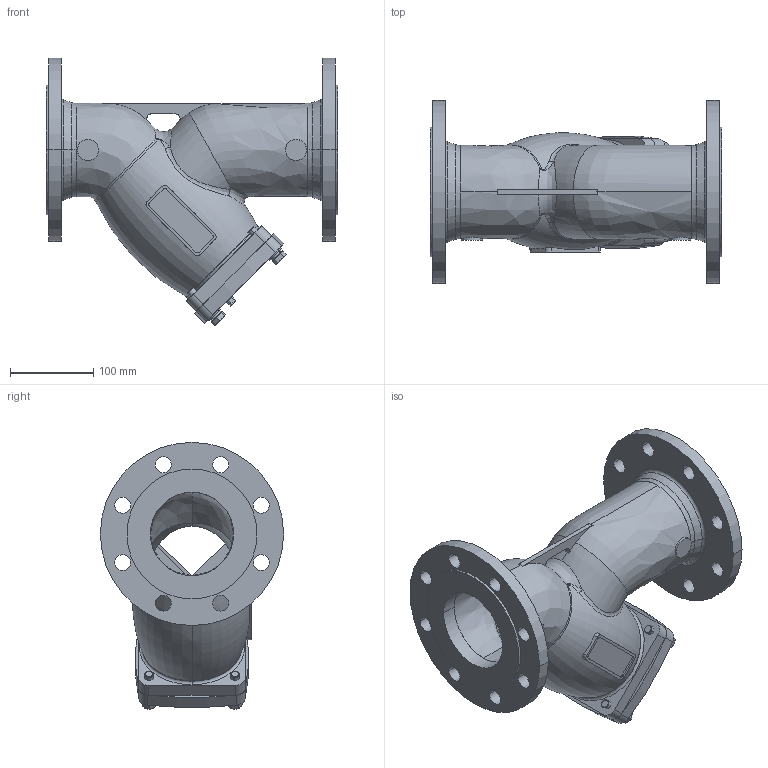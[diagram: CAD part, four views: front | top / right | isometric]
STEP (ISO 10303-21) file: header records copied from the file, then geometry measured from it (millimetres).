
FILE_DESCRIPTION(('Open CASCADE Model'),'2;1');
FILE_NAME('Open CASCADE Shape Model','2023-03-02T07:12:58',('Author'),( 'Open CASCADE'),'Open CASCADE STEP processor 7.3','Open CASCADE 7.3' ,'Unknown');
FILE_SCHEMA(('AUTOMOTIVE_DESIGN { 1 0 10303 214 1 1 1 1 }'));
Length unit declared in the file: millimetre
Products named in the file (16): Open CASCADE STEP translator 7.3 1; Open CASCADE STEP translator 7.3 1.1; Open CASCADE STEP translator 7.3 1.2; Open CASCADE STEP translator 7.3 1.3; Open CASCADE STEP translator 7.3 1.4; Open CASCADE STEP translator 7.3 1.5; Open CASCADE STEP translator 7.3 1.6; Open CASCADE STEP translator 7.3 1.7; Open CASCADE STEP translator 7.3 1.8; Open CASCADE STEP translator 7.3 1.9; Open CASCADE STEP translator 7.3 1.10; Open CASCADE STEP translator 7.3 1.11; Open CASCADE STEP translator 7.3 1.12; Open CASCADE STEP translator 7.3 1.13; Open CASCADE STEP translator 7.3 1.14; Open CASCADE STEP translator 7.3 1.15
Assembly tree (15 placements, depth 2):
  Open CASCADE STEP translator 7.3 1
    Open CASCADE STEP translator 7.3 1.1
    Open CASCADE STEP translator 7.3 1.2
    Open CASCADE STEP translator 7.3 1.3
    Open CASCADE STEP translator 7.3 1.4
    Open CASCADE STEP translator 7.3 1.5
    Open CASCADE STEP translator 7.3 1.6
    Open CASCADE STEP translator 7.3 1.7
    Open CASCADE STEP translator 7.3 1.8
    Open CASCADE STEP translator 7.3 1.9
    Open CASCADE STEP translator 7.3 1.10
    Open CASCADE STEP translator 7.3 1.11
    Open CASCADE STEP translator 7.3 1.12
    Open CASCADE STEP translator 7.3 1.13
    Open CASCADE STEP translator 7.3 1.14
    Open CASCADE STEP translator 7.3 1.15
Bounding box: 350 x 220 x 321.03 mm (x, y, z)
Volume: 2243600.9 mm3; surface area: 526619.3 mm2
Topology: 15 solids, 15 shells, 387 faces, 948 edges, 599 vertices
Faces by surface type: cylinder 156, plane 138, cone 46, bspline 25, torus 14, revolution 4, sphere 4
Entity records: 43825 total; most frequent: CARTESIAN_POINT 25426, DIRECTION 3215, ORIENTED_EDGE 1888, PCURVE 1888, DEFINITIONAL_REPRESENTATION 1888, LINE 1360, VECTOR 1360, EDGE_CURVE 944
